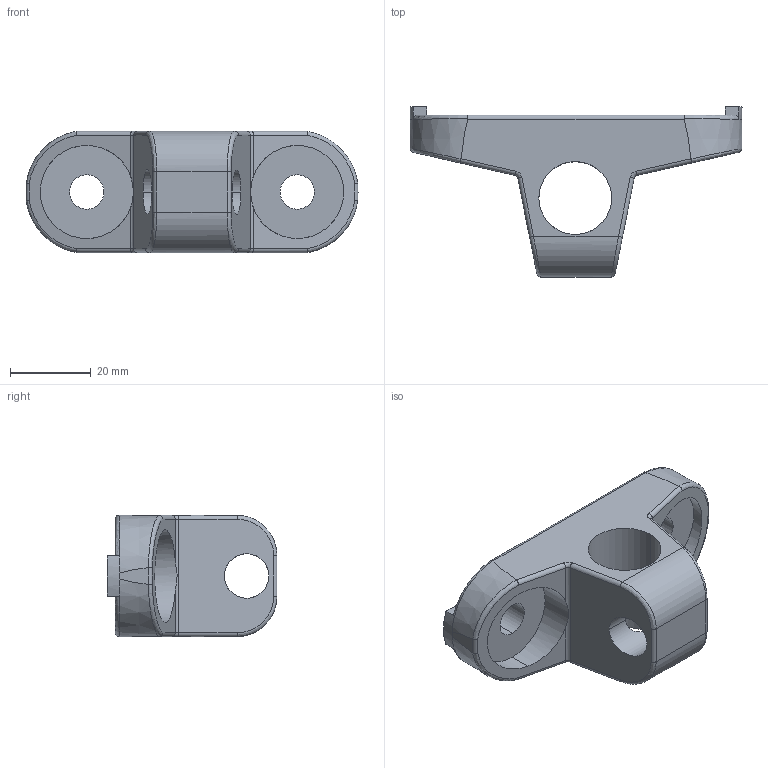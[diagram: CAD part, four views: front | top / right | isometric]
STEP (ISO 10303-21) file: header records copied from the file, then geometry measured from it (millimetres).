
FILE_DESCRIPTION (( 'STEP AP214' ), '1' );
FILE_NAME ('FGRF 40x18.step', '2017-04-05T07:43:12', ( '' ), ( '' ), 'SwSTEP 2.0', 'SolidWorks 2015', '' );
FILE_SCHEMA (( 'AUTOMOTIVE_DESIGN' ));
Length unit declared in the file: millimetre
Products named in the file (1): FGRF 40x18
Bounding box: 82.03 x 42 x 30 mm (x, y, z)
Volume: 32628.6 mm3; surface area: 11608.9 mm2
Topology: 1 solids, 1 shells, 78 faces, 207 edges, 130 vertices
Faces by surface type: cylinder 38, plane 20, bspline 8, torus 8, cone 4
Entity records: 3009 total; most frequent: CARTESIAN_POINT 1174, ORIENTED_EDGE 414, DIRECTION 335, EDGE_CURVE 207, AXIS2_PLACEMENT_3D 131, VERTEX_POINT 130, EDGE_LOOP 87, ADVANCED_FACE 78
